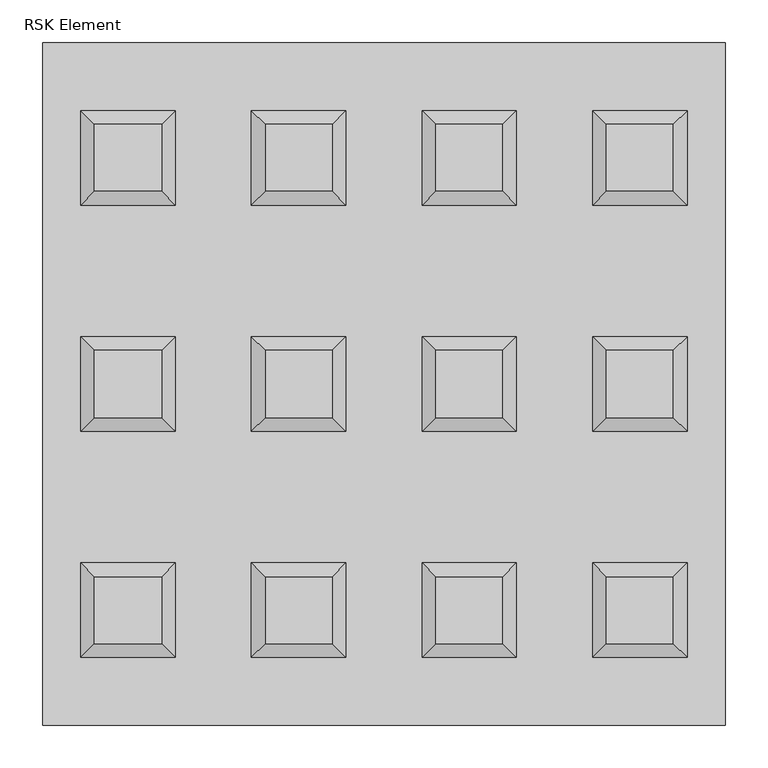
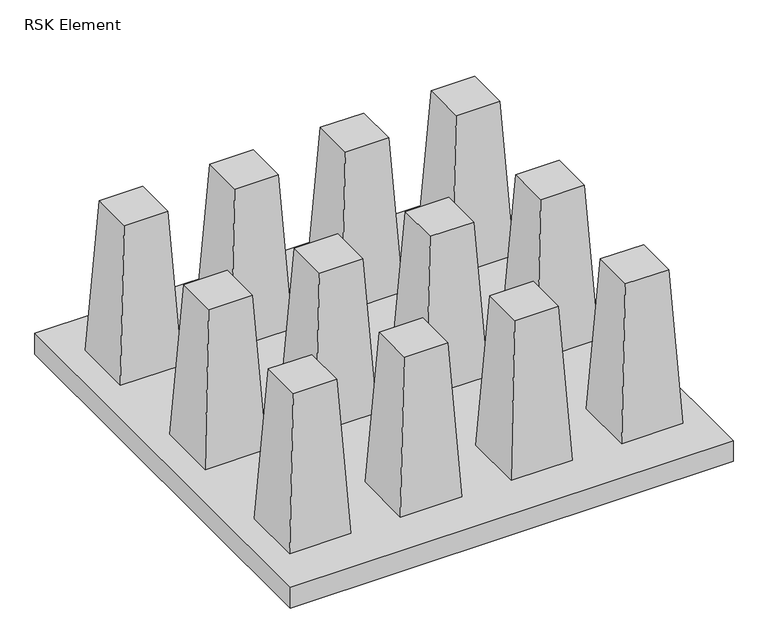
"""IFC4 building model written with IfcOpenShell, lengths in millimetres: proxy geometry, RAUSIKKO SX+HX Element : RSK Element."""

import ifcopenshell
import ifcopenshell.guid

model = None  # the IFC model being written
_history = None  # IfcOwnerHistory: only IFC2X3 demands one
_inside = {}  # id of a spatial element -> (the spatial element, [elements in it])
_under = {}  # id of a project, library or spatial element -> (it, [spatial elements below it])
_declared = {}  # id of a project -> (the project, [libraries it declares])
_typed = {}  # id of a type object -> (the type object, [elements of that type])
_made_of = {}  # id of a material, layer set ... -> (it, [elements and type objects made of it])


def new_model(schema):
    """Start an empty IFC model of exactly this schema.

    Asked for "IFC4X3", IfcOpenShell would pick the latest addendum, in which some entities
    have other attributes; the version numbers below select the first issue.
    IFC2X3 requires an IfcOwnerHistory on every rooted entity: one is made here for all.
    """
    global model, _history
    if schema == "IFC4X3":
        model = ifcopenshell.file(schema_version=(4, 3, 0, 0))
    else:
        model = ifcopenshell.file(schema=schema)
    _inside.clear()
    _under.clear()
    _declared.clear()
    _typed.clear()
    _made_of.clear()
    _history = None
    if model.schema == "IFC2X3":
        org = make("IfcOrganization", Name="unknown")
        user = make(
            "IfcPersonAndOrganization",
            ThePerson=make("IfcPerson", FamilyName="unknown"),
            TheOrganization=org,
        )
        app = make(
            "IfcApplication",
            ApplicationDeveloper=org,
            Version="unknown",
            ApplicationFullName="unknown",
            ApplicationIdentifier="unknown",
        )
        _history = make(
            "IfcOwnerHistory",
            OwningUser=user,
            OwningApplication=app,
            ChangeAction="ADDED",
            CreationDate=0,
        )
    return model


def make(cls, **values):
    """One entity of the class cls with the attributes given. An attribute that is None is left unset."""
    return model.create_entity(
        cls, **{name: value for name, value in values.items() if value is not None}
    )


def rooted(cls, **values):
    """An entity with a GlobalId (a new one), such as an element, a storey or a relation."""
    return make(cls, GlobalId=ifcopenshell.guid.new(), OwnerHistory=_history, **values)


def si_unit(unit_type, name, prefix=None):
    """IfcSIUnit, for example si_unit("LENGTHUNIT", "METRE", prefix="MILLI")."""
    return make("IfcSIUnit", UnitType=unit_type, Prefix=prefix, Name=name)


def assignment(units):
    """IfcUnitAssignment: the units of a project."""
    return None if units is None else make("IfcUnitAssignment", Units=units)


def point(xyz):
    """IfcCartesianPoint."""
    return None if xyz is None else make("IfcCartesianPoint", Coordinates=xyz)


def direction(xyz):
    """IfcDirection."""
    return None if xyz is None else make("IfcDirection", DirectionRatios=xyz)


def frame(location, z_axis=None, x_axis=None):
    """IfcAxis2Placement3D, a coordinate frame: its origin and axes. An axis left out is left unset."""
    return make(
        "IfcAxis2Placement3D",
        Location=point(location),
        Axis=direction(z_axis),
        RefDirection=direction(x_axis),
    )


def origin():
    """The frame at (0, 0, 0) with its axes left unset."""
    return frame((0.0, 0.0, 0.0))


def place(relative_to, where):
    """IfcLocalPlacement: puts the frame where relative to a parent placement (None: the world)."""
    return make(
        "IfcLocalPlacement", PlacementRelTo=relative_to, RelativePlacement=where
    )


def context(
    kind, dimensions, precision=None, world=None, true_north=None, identifier=None
):
    """IfcGeometricRepresentationContext, for example the 3D "Model" context."""
    return make(
        "IfcGeometricRepresentationContext",
        ContextIdentifier=identifier,
        ContextType=kind,
        CoordinateSpaceDimension=dimensions,
        Precision=precision,
        WorldCoordinateSystem=world,
        TrueNorth=true_north,
    )


def project(units=None, contexts=None):
    """IfcProject with its units and contexts."""
    return rooted(
        "IfcProject",
        Name="project",
        RepresentationContexts=contexts,
        UnitsInContext=assignment(units),
    )


def spatial(cls, under=None, at=None, **own):
    """A site, building, storey or space (cls), placed at a placement, below another one or the project."""
    s = rooted(cls, ObjectPlacement=at, **own)
    if under is not None:
        _under.setdefault(under.id(), (under, []))[1].append(s)
    return s


def faces_of(points, faces, orient=None, outer=None):
    """IfcFace entities. A face is a list of loops; a loop is a list of indices into points, from 0.

    orient and outer hold one flag for each loop. By default every Orientation is true, the
    first loop of a face is its IfcFaceOuterBound and the others are IfcFaceBound.
    """
    made = []
    for i, loops in enumerate(faces):
        bounds = []
        for j, loop in enumerate(loops):
            is_outer = j == 0 if outer is None else outer[i][j]
            bounds.append(
                make(
                    "IfcFaceOuterBound" if is_outer else "IfcFaceBound",
                    Bound=make("IfcPolyLoop", Polygon=[points[k] for k in loop]),
                    Orientation=True if orient is None else orient[i][j],
                )
            )
        made.append(make("IfcFace", Bounds=bounds))
    return made


def faceted_brep(points, faces, orient=None, outer=None, voids=None):
    """IfcFacetedBrep: a solid bounded by flat faces; with voids (closed shells), ...WithVoids."""
    shared = [point(p) for p in points]
    hull = make("IfcClosedShell", CfsFaces=faces_of(shared, faces, orient, outer))
    if voids is None:
        return make("IfcFacetedBrep", Outer=hull)
    return make(
        "IfcFacetedBrepWithVoids",
        Outer=hull,
        Voids=[
            make(cls, CfsFaces=faces_of(shared, fs, o, b)) for cls, fs, o, b in voids
        ],
    )


def shape(context_of_items, identifier, shape_type, items):
    """IfcShapeRepresentation: the items that make up one representation, for example the "Body"."""
    return make(
        "IfcShapeRepresentation",
        ContextOfItems=context_of_items,
        RepresentationIdentifier=identifier,
        RepresentationType=shape_type,
        Items=items,
    )


def source(mapping_origin, context_of_items, identifier, shape_type, items):
    """IfcRepresentationMap: a shape defined once, which mapped items show again and again."""
    return make(
        "IfcRepresentationMap",
        MappingOrigin=mapping_origin,
        MappedRepresentation=shape(context_of_items, identifier, shape_type, items),
    )


def transform(
    local_origin,
    x_axis=None,
    y_axis=None,
    z_axis=None,
    scale=None,
    scale2=None,
    scale3=None,
    uniform=True,
):
    """IfcCartesianTransformationOperator3D, or its non-uniform kind. x_axis, y_axis, z_axis: its Axis1, 2, 3."""
    if uniform:
        return make(
            "IfcCartesianTransformationOperator3D",
            Axis1=direction(x_axis),
            Axis2=direction(y_axis),
            LocalOrigin=point(local_origin),
            Scale=scale,
            Axis3=direction(z_axis),
        )
    return make(
        "IfcCartesianTransformationOperator3DnonUniform",
        Axis1=direction(x_axis),
        Axis2=direction(y_axis),
        LocalOrigin=point(local_origin),
        Scale=scale,
        Axis3=direction(z_axis),
        Scale2=scale2,
        Scale3=scale3,
    )


def mapped(mapping_source, mapping_target):
    """IfcMappedItem: shows the shape of a source again, moved by a transform."""
    return make(
        "IfcMappedItem", MappingSource=mapping_source, MappingTarget=mapping_target
    )


def made_of(thing, what):
    """Note that an element or type object is made of a material, layer set ...; save() writes the relation."""
    if what is not None:
        _made_of.setdefault(what.id(), (what, []))[1].append(thing)
    return thing


def element(
    cls,
    number,
    at=None,
    inside=None,
    cuts=None,
    type_object=None,
    material=None,
    context=None,
    identifier="Body",
    shape_type=None,
    held_by="IfcProductDefinitionShape",
    body=None,
    shapes=None,
    **own,
):
    """One element of the class cls, such as IfcWall. Its Tag is "e" and its number.

    at: its placement. inside: the storey or other place that contains it. cuts: it is an
    opening in that element (IfcRelVoidsElement). A single representation is given by context,
    identifier, shape_type and body (its items); several are given by shapes. held_by: the class
    of the entity that holds the representations. save() writes the other relations.
    """
    e = rooted(cls, Tag="e%d" % number, ObjectPlacement=at, **own)
    if body is not None:
        shapes = [shape(context, identifier, shape_type, body)]
    if shapes is not None:
        e.Representation = make(held_by, Representations=shapes)
    if inside is not None:
        _inside.setdefault(inside.id(), (inside, []))[1].append(e)
    if cuts is not None:
        rooted(
            "IfcRelVoidsElement", RelatingBuildingElement=cuts, RelatedOpeningElement=e
        )
    if type_object is not None:
        _typed.setdefault(type_object.id(), (type_object, []))[1].append(e)
    return made_of(e, material)


def aggregate(whole, parts):
    """IfcRelAggregates: a whole, such as a stair, and the parts it consists of."""
    return rooted("IfcRelAggregates", RelatingObject=whole, RelatedObjects=parts)


def save(model, path):
    """Write the relations noted so far, then the file.

    IfcRelAggregates (storeys below a building ...), IfcRelContainedInSpatialStructure (elements
    in a storey), IfcRelDefinesByType, IfcRelAssociatesMaterial and IfcRelDeclares: one each for
    every whole, place, type object, material and project.
    """
    for whole, parts in _under.values():
        aggregate(whole, parts)
    for where, things in _inside.values():
        rooted(
            "IfcRelContainedInSpatialStructure",
            RelatedElements=things,
            RelatingStructure=where,
        )
    for kind, things in _typed.values():
        rooted("IfcRelDefinesByType", RelatedObjects=things, RelatingType=kind)
    for what, things in _made_of.values():
        rooted("IfcRelAssociatesMaterial", RelatedObjects=things, RelatingMaterial=what)
    for by, libraries in _declared.values():
        rooted("IfcRelDeclares", RelatingContext=by, RelatedDefinitions=libraries)
    model.write(path)


def rsk_element_fa4f0fc6(model_context):
    return source(origin(), model_context, "Body", "Brep", [
        faceted_brep([(0.0, 0.0, 40.0), (0.0, -800.0, 40.0), (800.0, -800.0, 40.0), (800.0, 0.0, 40.0), (44.7058961, -79.7058961, 40.0), (155.2941039, -79.7058961, 40.0), (155.2941039, -190.2941039, 40.0), (44.7058961, -190.2941039, 40.0), (44.7058961, -344.7058961, 40.0), (155.2941039, -344.7058961, 40.0), (155.2941039, -455.2941039, 40.0), (44.7058961, -455.2941039, 40.0), (44.7058961, -609.7058961, 40.0), (155.2941039, -609.7058961, 40.0), (155.2941039, -720.2941039, 40.0), (44.7058961, -720.2941039, 40.0), (244.7058961, -609.7058961, 40.0), (355.2941039, -609.7058961, 40.0), (355.2941039, -720.2941039, 40.0), (244.7058961, -720.2941039, 40.0), (244.7058961, -344.7058961, 40.0), (355.2941039, -344.7058961, 40.0), (355.2941039, -455.2941039, 40.0), (244.7058961, -455.2941039, 40.0), (244.7058961, -79.7058961, 40.0), (355.2941039, -79.7058961, 40.0), (355.2941039, -190.2941039, 40.0), (244.7058961, -190.2941039, 40.0), (444.7058961, -79.7058961, 40.0), (555.2941039, -79.7058961, 40.0), (555.2941039, -190.2941039, 40.0), (444.7058961, -190.2941039, 40.0), (444.7058961, -344.7058961, 40.0), (555.2941039, -344.7058961, 40.0), (555.2941039, -455.2941039, 40.0), (444.7058961, -455.2941039, 40.0), (444.7058961, -609.7058961, 40.0), (555.2941039, -609.7058961, 40.0), (555.2941039, -720.2941039, 40.0), (444.7058961, -720.2941039, 40.0), (644.7058961, -79.7058961, 40.0), (755.2941039, -79.7058961, 40.0), (755.2941039, -190.2941039, 40.0), (644.7058961, -190.2941039, 40.0), (644.7058961, -344.7058961, 40.0), (755.2941039, -344.7058961, 40.0), (755.2941039, -455.2941039, 40.0), (644.7058961, -455.2941039, 40.0), (644.7058961, -609.7058961, 40.0), (755.2941039, -609.7058961, 40.0), (755.2941039, -720.2941039, 40.0), (644.7058961, -720.2941039, 40.0), (0.0, 0.0, 0.0), (800.0, 0.0, 0.0), (800.0, -800.0, 0.0), (0.0, -800.0, 0.0), (60.6986426, -174.3013574, 330.0), (139.3013574, -174.3013574, 330.0), (139.3013574, -95.6986426, 330.0), (60.6986426, -95.6986426, 330.0), (60.6986426, -439.3013574, 330.0), (139.3013574, -439.3013574, 330.0), (139.3013574, -360.6986426, 330.0), (60.6986426, -360.6986426, 330.0), (60.6986426, -704.3013574, 330.0), (139.3013574, -704.3013574, 330.0), (139.3013574, -625.6986426, 330.0), (60.6986426, -625.6986426, 330.0), (260.6986426, -704.3013574, 330.0), (339.3013574, -704.3013574, 330.0), (339.3013574, -625.6986426, 330.0), (260.6986426, -625.6986426, 330.0), (260.6986426, -439.3013574, 330.0), (339.3013574, -439.3013574, 330.0), (339.3013574, -360.6986426, 330.0), (260.6986426, -360.6986426, 330.0), (260.6986426, -174.3013574, 330.0), (339.3013574, -174.3013574, 330.0), (339.3013574, -95.6986426, 330.0), (260.6986426, -95.6986426, 330.0), (460.6986426, -174.3013574, 330.0), (539.3013574, -174.3013574, 330.0), (539.3013574, -95.6986426, 330.0), (460.6986426, -95.6986426, 330.0), (460.6986426, -439.3013574, 330.0), (539.3013574, -439.3013574, 330.0), (539.3013574, -360.6986426, 330.0), (460.6986426, -360.6986426, 330.0), (460.6986426, -704.3013574, 330.0), (539.3013574, -704.3013574, 330.0), (539.3013574, -625.6986426, 330.0), (460.6986426, -625.6986426, 330.0), (660.6986426, -174.3013574, 330.0), (739.3013574, -174.3013574, 330.0), (739.3013574, -95.6986426, 330.0), (660.6986426, -95.6986426, 330.0), (660.6986426, -439.3013574, 330.0), (739.3013574, -439.3013574, 330.0), (739.3013574, -360.6986426, 330.0), (660.6986426, -360.6986426, 330.0), (660.6986426, -704.3013574, 330.0), (739.3013574, -704.3013574, 330.0), (739.3013574, -625.6986426, 330.0), (660.6986426, -625.6986426, 330.0)], [[[0, 1, 2, 3], [4, 5, 6, 7], [8, 9, 10, 11], [12, 13, 14, 15], [16, 17, 18, 19], [20, 21, 22, 23], [24, 25, 26, 27], [28, 29, 30, 31], [32, 33, 34, 35], [36, 37, 38, 39], [40, 41, 42, 43], [44, 45, 46, 47], [48, 49, 50, 51]], [[52, 53, 54, 55]], [[3, 53, 52, 0]], [[2, 54, 53, 3]], [[1, 55, 54, 2]], [[0, 52, 55, 1]], [[56, 57, 58, 59]], [[59, 4, 7, 56]], [[58, 5, 4, 59]], [[57, 6, 5, 58]], [[56, 7, 6, 57]], [[60, 61, 62, 63]], [[63, 8, 11, 60]], [[62, 9, 8, 63]], [[61, 10, 9, 62]], [[60, 11, 10, 61]], [[64, 65, 66, 67]], [[67, 12, 15, 64]], [[66, 13, 12, 67]], [[65, 14, 13, 66]], [[64, 15, 14, 65]], [[68, 69, 70, 71]], [[71, 16, 19, 68]], [[70, 17, 16, 71]], [[69, 18, 17, 70]], [[68, 19, 18, 69]], [[72, 73, 74, 75]], [[75, 20, 23, 72]], [[74, 21, 20, 75]], [[73, 22, 21, 74]], [[72, 23, 22, 73]], [[76, 77, 78, 79]], [[79, 24, 27, 76]], [[78, 25, 24, 79]], [[77, 26, 25, 78]], [[76, 27, 26, 77]], [[80, 81, 82, 83]], [[83, 28, 31, 80]], [[82, 29, 28, 83]], [[81, 30, 29, 82]], [[80, 31, 30, 81]], [[84, 85, 86, 87]], [[87, 32, 35, 84]], [[86, 33, 32, 87]], [[85, 34, 33, 86]], [[84, 35, 34, 85]], [[88, 89, 90, 91]], [[91, 36, 39, 88]], [[90, 37, 36, 91]], [[89, 38, 37, 90]], [[88, 39, 38, 89]], [[92, 93, 94, 95]], [[95, 40, 43, 92]], [[94, 41, 40, 95]], [[93, 42, 41, 94]], [[92, 43, 42, 93]], [[96, 97, 98, 99]], [[99, 44, 47, 96]], [[98, 45, 44, 99]], [[97, 46, 45, 98]], [[96, 47, 46, 97]], [[100, 101, 102, 103]], [[103, 48, 51, 100]], [[102, 49, 48, 103]], [[101, 50, 49, 102]], [[100, 51, 50, 101]]]),
    ])


if __name__ == "__main__":
    model = new_model("IFC4")
    model_context = context("Model", 3, world=origin())
    ifc_project = project(units=[si_unit("LENGTHUNIT", "METRE", prefix="MILLI")], contexts=[model_context])
    site = spatial("IfcSite", under=ifc_project)
    building = spatial("IfcBuilding", under=site)
    placement = place(None, origin())
    rsk_element_shape = rsk_element_fa4f0fc6(model_context)
    element("IfcBuildingElementProxy", 1, Name="RAUSIKKO SX+HX Element : RSK Element", ObjectType="RAUSIKKO SX+HX Element : RSK Element", at=placement, inside=building, context=model_context, shape_type="MappedRepresentation", body=[
        mapped(rsk_element_shape, transform((0.0, 0.0, 0.0), x_axis=(1.0, 0.0, 0.0), y_axis=(0.0, 1.0, 0.0), z_axis=(0.0, 0.0, 1.0))),
    ])
    save(model, "model.ifc")
